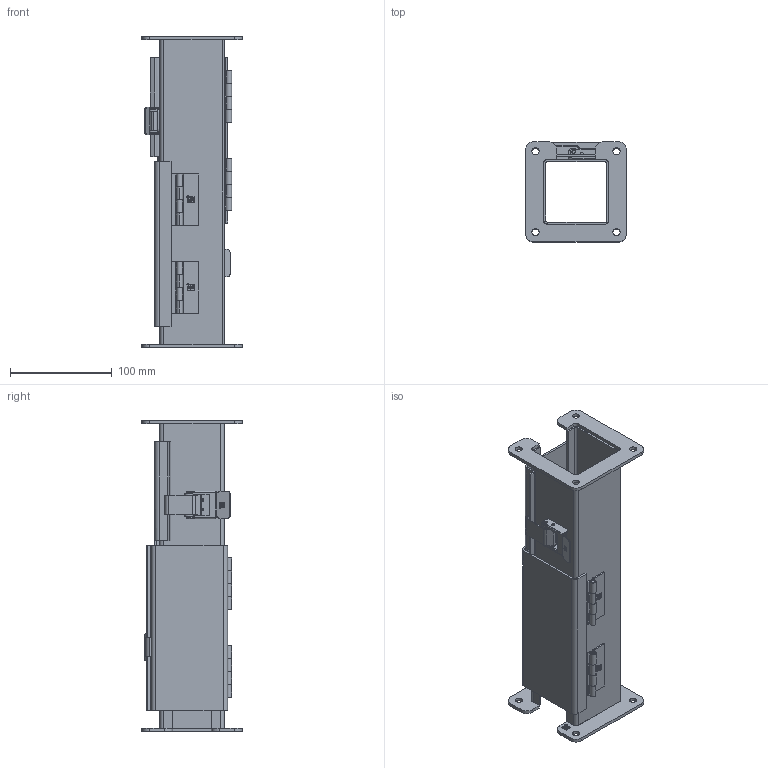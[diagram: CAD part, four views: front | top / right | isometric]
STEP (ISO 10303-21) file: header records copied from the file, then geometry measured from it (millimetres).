
FILE_DESCRIPTION (( 'STEP AP203' ), '1' );
FILE_NAME ('f22lkokt.STEP', '2013-08-05T06:28:42', ( '' ), ( '' ), 'SwSTEP 2.0', 'SolidWorks 2010', '' );
FILE_SCHEMA (( 'CONFIG_CONTROL_DESIGN' ));
Length unit declared in the file: inch
Products named in the file (16): 89088172_CLOSED; 89047821; 89047820; 18298001; 18299001; 14302008; f22lkokt; 89088166_CLOSED; 89047819_89047041; 89088167_CLOSED; 19201001; 14102015_CLOSE; 14136001; 14138001; 14137001; 14141001_CLOSED
Assembly tree (22 placements, depth 5):
  f22lkokt
    14141001_CLOSED  x2
      14138001
      14137001
    89088172_CLOSED
      89088167_CLOSED
        14102015_CLOSE  x2
          89047821
          89047820
          89047819_89047041
        18299001
      14136001  x2
      14302008  x2
      18298001  x2
      89088166_CLOSED
        14102015_CLOSE  x2
          89047821
          89047820
          89047819_89047041
        19201001
Bounding box: 98.45 x 98.45 x 304.95 mm (x, y, z)
Volume: 217685.9 mm3; surface area: 245235.6 mm2
Topology: 24 solids, 24 shells, 1556 faces, 4076 edges, 2634 vertices
Faces by surface type: plane 742, bspline 528, cylinder 250, torus 24, cone 12
Entity records: 36095 total; most frequent: CARTESIAN_POINT 19606, ORIENTED_EDGE 3318, DIRECTION 2453, EDGE_CURVE 1659, VERTEX_POINT 1067, VECTOR 997, LINE 997, AXIS2_PLACEMENT_3D 728
